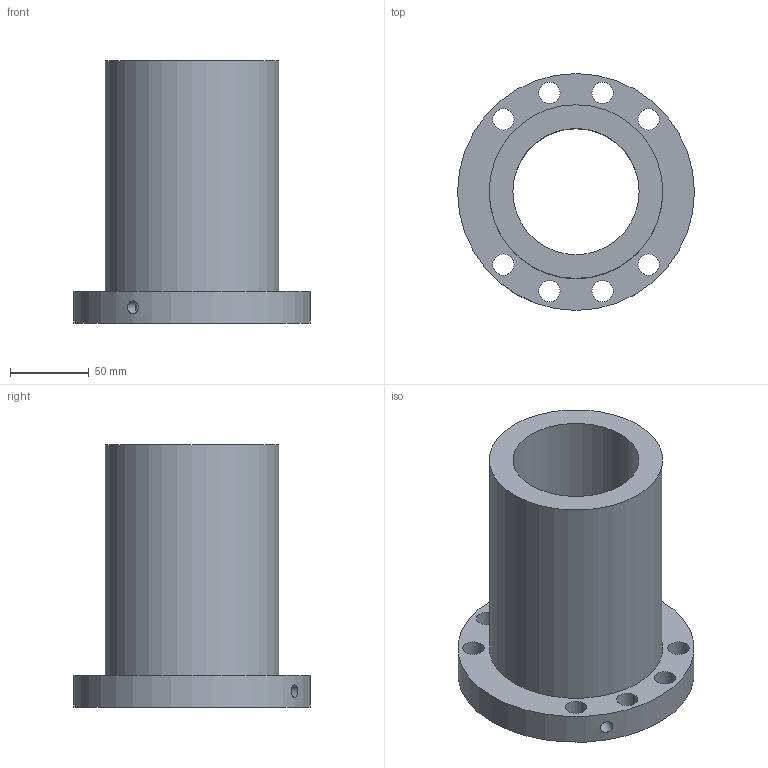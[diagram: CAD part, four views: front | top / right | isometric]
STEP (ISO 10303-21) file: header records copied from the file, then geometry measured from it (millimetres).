
FILE_DESCRIPTION(/* description */ (''),/* implementation_level */ '2;1');
FILE_NAME(/* name */ '80-10K5_635',/* time_stamp */ '2007-10-15T12:53:52+08:00',/* author */ (''),/* organization */ (''),/* preprocessor_version */ 'ST-DEVELOPER v11',/* originating_system */ 'UGS - NX 5.0',/* authorisation */ '');
FILE_SCHEMA (('CONFIG_CONTROL_DESIGN'));
Length unit declared in the file: millimetre
Products named in the file (1): 80-10K5_635
Bounding box: 150 x 150 x 166 mm (x, y, z)
Volume: 882396.3 mm3; surface area: 132050.3 mm2
Topology: 1 solids, 1 shells, 17 faces, 40 edges, 27 vertices
Faces by surface type: cylinder 13, plane 4
Full cylindrical faces by diameter (mm): 6 x1, 8 x1, 13.5 x8, 80 x1, 110 x1, 150 x1
Entity records: 668 total; most frequent: CARTESIAN_POINT 184, DIRECTION 84, FACE_BOUND 52, EDGE_LOOP 52, ORIENTED_EDGE 52, AXIS2_PLACEMENT_3D 42, VERTEX_POINT 26, EDGE_CURVE 26
